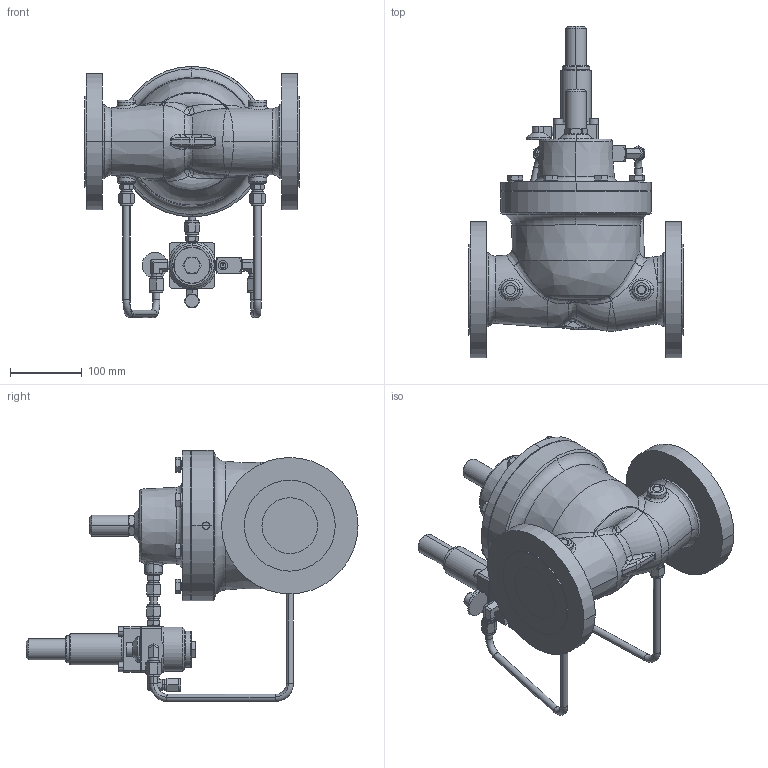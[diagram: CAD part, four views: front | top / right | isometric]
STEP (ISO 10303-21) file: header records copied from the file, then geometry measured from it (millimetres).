
FILE_DESCRIPTION((''),'2;1');
FILE_NAME('230226_ARGOS_3_TRAV-I_SW0002','2019-10-29T',('jjunior'),(''),'PRO/ENGINEER BY PARAMETRIC TECHNOLOGY CORPORATION, 2010160','PRO/ENGINEER BY PARAMETRIC TECHNOLOGY CORPORATION, 2010160','');
FILE_SCHEMA(('CONFIG_CONTROL_DESIGN'));
Products named in the file (1): 230226_ARGOS_3_TRAV-I_SW0002
Bounding box: 299 x 463.65 x 350.65 mm (x, y, z)
Volume: 4295368.5 mm3; surface area: 695429.7 mm2
Topology: 1 solids, 2 shells, 1104 faces, 2536 edges, 1552 vertices
Faces by surface type: plane 336, cone 297, cylinder 263, bspline 111, torus 90, revolution 4, sphere 3
Entity records: 47913 total; most frequent: CARTESIAN_POINT 24147, ORIENTED_EDGE 5070, DIRECTION 4726, EDGE_CURVE 2535, AXIS2_PLACEMENT_3D 2004, VERTEX_POINT 1552, EDGE_LOOP 1233, FACE_OUTER_BOUND 1104
